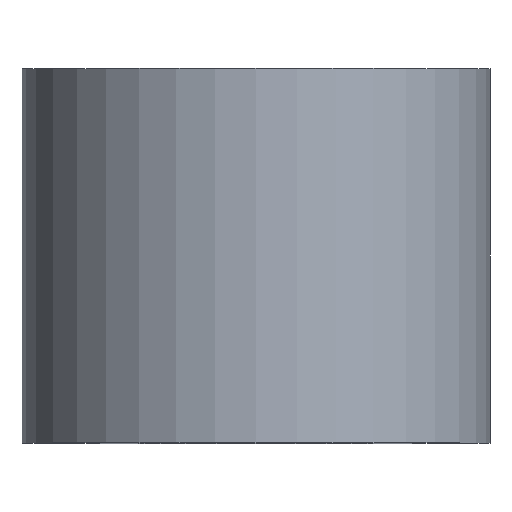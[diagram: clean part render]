
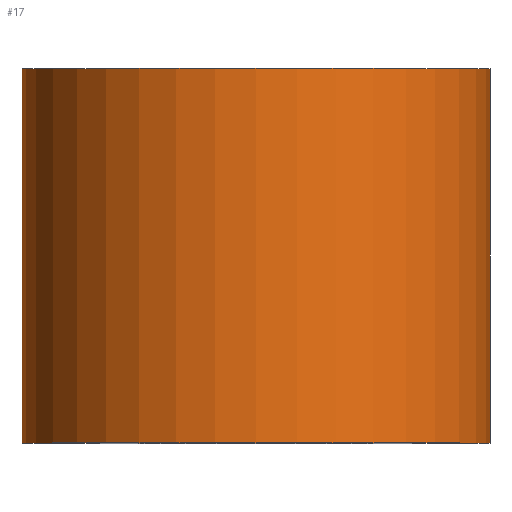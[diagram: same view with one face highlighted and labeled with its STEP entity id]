
A CAD part, top view. The second image highlights one B-rep face of the part: STEP entity #17.
In plain terms, the highlighted cylindrical face has radius 5 mm (diameter 10 mm), a full revolution.
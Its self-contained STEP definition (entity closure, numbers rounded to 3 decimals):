
#17 = ADVANCED_FACE('',(#18),#31,.T.);
#18 = FACE_BOUND('',#19,.T.);
#19 = EDGE_LOOP('',(#20,#54,#77,#104));
#20 = ORIENTED_EDGE('',*,*,#21,.F.);
#21 = EDGE_CURVE('',#22,#22,#24,.T.);
#22 = VERTEX_POINT('',#23);
#23 = CARTESIAN_POINT('',(171.,-35.,209.));
#24 = SURFACE_CURVE('',#25,(#30,#42),.PCURVE_S1.);
#25 = CIRCLE('',#26,5.);
#26 = AXIS2_PLACEMENT_3D('',#27,#28,#29);
#27 = CARTESIAN_POINT('',(171.,-35.,204.));
#28 = DIRECTION('',(0.,1.,0.));
#29 = DIRECTION('',(0.,-0.,1.));
#30 = PCURVE('',#31,#36);
#31 = CYLINDRICAL_SURFACE('',#32,5.);
#32 = AXIS2_PLACEMENT_3D('',#33,#34,#35);
#33 = CARTESIAN_POINT('',(171.,-43.,204.));
#34 = DIRECTION('',(0.,1.,0.));
#35 = DIRECTION('',(0.,-0.,1.));
#36 = DEFINITIONAL_REPRESENTATION('',(#37),#41);
#37 = LINE('',#38,#39);
#38 = CARTESIAN_POINT('',(0.,8.));
#39 = VECTOR('',#40,1.);
#40 = DIRECTION('',(1.,0.));
#41 = ( GEOMETRIC_REPRESENTATION_CONTEXT(2) 
PARAMETRIC_REPRESENTATION_CONTEXT() REPRESENTATION_CONTEXT('2D SPACE',''
  ) );
#42 = PCURVE('',#43,#48);
#43 = PLANE('',#44);
#44 = AXIS2_PLACEMENT_3D('',#45,#46,#47);
#45 = CARTESIAN_POINT('',(171.,-35.,204.));
#46 = DIRECTION('',(0.,1.,0.));
#47 = DIRECTION('',(0.,-0.,1.));
#48 = DEFINITIONAL_REPRESENTATION('',(#49),#53);
#49 = CIRCLE('',#50,5.);
#50 = AXIS2_PLACEMENT_2D('',#51,#52);
#51 = CARTESIAN_POINT('',(0.,0.));
#52 = DIRECTION('',(1.,0.));
#53 = ( GEOMETRIC_REPRESENTATION_CONTEXT(2) 
PARAMETRIC_REPRESENTATION_CONTEXT() REPRESENTATION_CONTEXT('2D SPACE',''
  ) );
#54 = ORIENTED_EDGE('',*,*,#55,.F.);
#55 = EDGE_CURVE('',#56,#22,#58,.T.);
#56 = VERTEX_POINT('',#57);
#57 = CARTESIAN_POINT('',(171.,-43.,209.));
#58 = SEAM_CURVE('',#59,(#63,#70),.PCURVE_S1.);
#59 = LINE('',#60,#61);
#60 = CARTESIAN_POINT('',(171.,-43.,209.));
#61 = VECTOR('',#62,1.);
#62 = DIRECTION('',(0.,1.,0.));
#63 = PCURVE('',#31,#64);
#64 = DEFINITIONAL_REPRESENTATION('',(#65),#69);
#65 = LINE('',#66,#67);
#66 = CARTESIAN_POINT('',(6.283,-0.));
#67 = VECTOR('',#68,1.);
#68 = DIRECTION('',(0.,1.));
#69 = ( GEOMETRIC_REPRESENTATION_CONTEXT(2) 
PARAMETRIC_REPRESENTATION_CONTEXT() REPRESENTATION_CONTEXT('2D SPACE',''
  ) );
#70 = PCURVE('',#31,#71);
#71 = DEFINITIONAL_REPRESENTATION('',(#72),#76);
#72 = LINE('',#73,#74);
#73 = CARTESIAN_POINT('',(0.,-0.));
#74 = VECTOR('',#75,1.);
#75 = DIRECTION('',(0.,1.));
#76 = ( GEOMETRIC_REPRESENTATION_CONTEXT(2) 
PARAMETRIC_REPRESENTATION_CONTEXT() REPRESENTATION_CONTEXT('2D SPACE',''
  ) );
#77 = ORIENTED_EDGE('',*,*,#78,.T.);
#78 = EDGE_CURVE('',#56,#56,#79,.T.);
#79 = SURFACE_CURVE('',#80,(#85,#92),.PCURVE_S1.);
#80 = CIRCLE('',#81,5.);
#81 = AXIS2_PLACEMENT_3D('',#82,#83,#84);
#82 = CARTESIAN_POINT('',(171.,-43.,204.));
#83 = DIRECTION('',(0.,1.,0.));
#84 = DIRECTION('',(0.,-0.,1.));
#85 = PCURVE('',#31,#86);
#86 = DEFINITIONAL_REPRESENTATION('',(#87),#91);
#87 = LINE('',#88,#89);
#88 = CARTESIAN_POINT('',(0.,0.));
#89 = VECTOR('',#90,1.);
#90 = DIRECTION('',(1.,0.));
#91 = ( GEOMETRIC_REPRESENTATION_CONTEXT(2) 
PARAMETRIC_REPRESENTATION_CONTEXT() REPRESENTATION_CONTEXT('2D SPACE',''
  ) );
#92 = PCURVE('',#93,#98);
#93 = PLANE('',#94);
#94 = AXIS2_PLACEMENT_3D('',#95,#96,#97);
#95 = CARTESIAN_POINT('',(171.,-43.,204.));
#96 = DIRECTION('',(0.,1.,0.));
#97 = DIRECTION('',(0.,-0.,1.));
#98 = DEFINITIONAL_REPRESENTATION('',(#99),#103);
#99 = CIRCLE('',#100,5.);
#100 = AXIS2_PLACEMENT_2D('',#101,#102);
#101 = CARTESIAN_POINT('',(0.,0.));
#102 = DIRECTION('',(1.,0.));
#103 = ( GEOMETRIC_REPRESENTATION_CONTEXT(2) 
PARAMETRIC_REPRESENTATION_CONTEXT() REPRESENTATION_CONTEXT('2D SPACE',''
  ) );
#104 = ORIENTED_EDGE('',*,*,#55,.T.);
